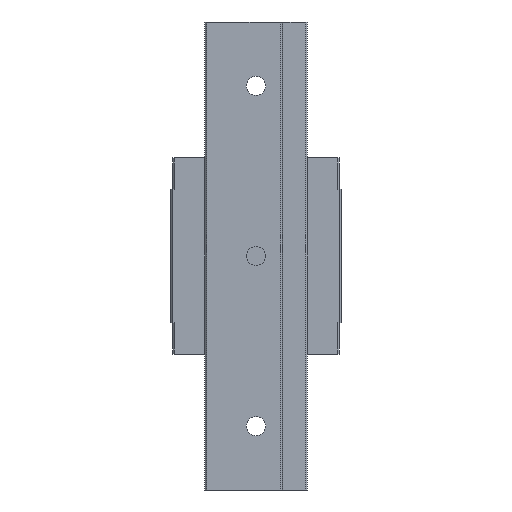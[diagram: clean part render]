
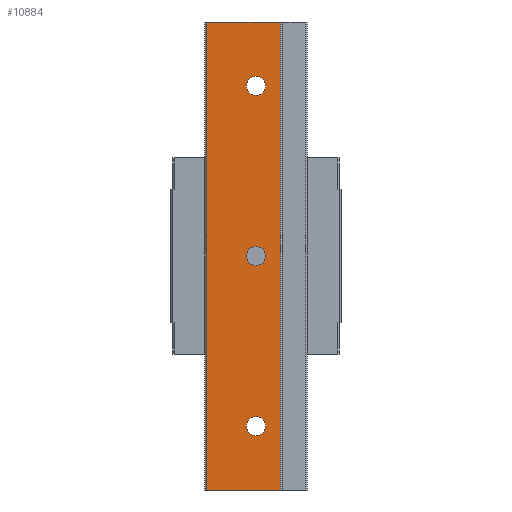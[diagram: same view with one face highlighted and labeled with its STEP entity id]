
A CAD part, front view. The second image highlights one B-rep face of the part: STEP entity #10884.
In plain terms, the highlighted planar face has unit normal (0, -1, 0).
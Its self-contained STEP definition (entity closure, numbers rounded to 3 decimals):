
#17 = CARTESIAN_POINT ( 'NONE',  ( 5.7, 0., 55. ) ) ;
#102 = VERTEX_POINT ( 'NONE', #4094 ) ;
#141 = VERTEX_POINT ( 'NONE', #3196 ) ;
#237 = CARTESIAN_POINT ( 'NONE',  ( 0., 0., 40. ) ) ;
#452 = CIRCLE ( 'NONE', #10877, 2.25 ) ;
#481 = CARTESIAN_POINT ( 'NONE',  ( 6., 0., 55. ) ) ;
#798 = CARTESIAN_POINT ( 'NONE',  ( 0., 0., -40. ) ) ;
#1048 = CARTESIAN_POINT ( 'NONE',  ( -11.6, 0., 55. ) ) ;
#1206 = EDGE_CURVE ( 'NONE', #7839, #102, #5314, .T. ) ;
#1422 = CARTESIAN_POINT ( 'NONE',  ( 0., 0., 0. ) ) ;
#1584 = FACE_BOUND ( 'NONE', #9323, .T. ) ;
#1624 = EDGE_CURVE ( 'NONE', #8481, #141, #7217, .T. ) ;
#1691 = DIRECTION ( 'NONE',  ( 1., 0., 0. ) ) ;
#2215 = ORIENTED_EDGE ( 'NONE', *, *, #1624, .F. ) ;
#2232 = CARTESIAN_POINT ( 'NONE',  ( 0., 0., 40. ) ) ;
#2523 = CIRCLE ( 'NONE', #6062, 2.25 ) ;
#2742 = AXIS2_PLACEMENT_3D ( 'NONE', #798, #7076, #7931 ) ;
#2780 = DIRECTION ( 'NONE',  ( 0., 0., 1. ) ) ;
#2783 = CARTESIAN_POINT ( 'NONE',  ( 5.7, 0., 55. ) ) ;
#2814 = ORIENTED_EDGE ( 'NONE', *, *, #3726, .F. ) ;
#2892 = CIRCLE ( 'NONE', #7164, 2.25 ) ;
#3143 = DIRECTION ( 'NONE',  ( 0., 0., -1. ) ) ;
#3188 = DIRECTION ( 'NONE',  ( 0., 0., -1. ) ) ;
#3196 = CARTESIAN_POINT ( 'NONE',  ( 5.7, 0., -55. ) ) ;
#3623 = VERTEX_POINT ( 'NONE', #3672 ) ;
#3672 = CARTESIAN_POINT ( 'NONE',  ( 0., 0., 37.75 ) ) ;
#3679 = CIRCLE ( 'NONE', #2742, 2.25 ) ;
#3726 = EDGE_CURVE ( 'NONE', #9530, #3623, #2523, .T. ) ;
#3817 = EDGE_LOOP ( 'NONE', ( #5675, #7553, #8089, #2215 ) ) ;
#4074 = DIRECTION ( 'NONE',  ( 0., -1., 0. ) ) ;
#4094 = CARTESIAN_POINT ( 'NONE',  ( 0., 0., -2.25 ) ) ;
#4102 = DIRECTION ( 'NONE',  ( -1., 0., 0. ) ) ;
#4178 = CIRCLE ( 'NONE', #10615, 2.25 ) ;
#4288 = EDGE_CURVE ( 'NONE', #3623, #9530, #452, .T. ) ;
#4342 = DIRECTION ( 'NONE',  ( 0., 1., 0. ) ) ;
#4645 = ORIENTED_EDGE ( 'NONE', *, *, #7266, .F. ) ;
#4690 = VERTEX_POINT ( 'NONE', #8008 ) ;
#4924 = CARTESIAN_POINT ( 'NONE',  ( 6., 0., -55. ) ) ;
#4965 = LINE ( 'NONE', #481, #11197 ) ;
#5008 = DIRECTION ( 'NONE',  ( 0., -1., 0. ) ) ;
#5016 = DIRECTION ( 'NONE',  ( 0., -1., 0. ) ) ;
#5087 = VECTOR ( 'NONE', #9193, 1000. ) ;
#5135 = EDGE_CURVE ( 'NONE', #4690, #9174, #3679, .T. ) ;
#5222 = CARTESIAN_POINT ( 'NONE',  ( 0., 0., -37.75 ) ) ;
#5256 = DIRECTION ( 'NONE',  ( 0., 0., -1. ) ) ;
#5314 = CIRCLE ( 'NONE', #9195, 2.25 ) ;
#5478 = VECTOR ( 'NONE', #2780, 1000. ) ;
#5675 = ORIENTED_EDGE ( 'NONE', *, *, #7691, .T. ) ;
#5682 = CARTESIAN_POINT ( 'NONE',  ( 0., 0., 42.25 ) ) ;
#5686 = VERTEX_POINT ( 'NONE', #1048 ) ;
#5716 = EDGE_CURVE ( 'NONE', #141, #9444, #7299, .T. ) ;
#6062 = AXIS2_PLACEMENT_3D ( 'NONE', #237, #9275, #9098 ) ;
#6140 = DIRECTION ( 'NONE',  ( 0., -1., 0. ) ) ;
#6192 = PLANE ( 'NONE',  #6203 ) ;
#6203 = AXIS2_PLACEMENT_3D ( 'NONE', #11400, #4342, #1691 ) ;
#6696 = DIRECTION ( 'NONE',  ( 0., 0., -1. ) ) ;
#6703 = ORIENTED_EDGE ( 'NONE', *, *, #10928, .F. ) ;
#6902 = FACE_BOUND ( 'NONE', #7283, .T. ) ;
#6903 = CARTESIAN_POINT ( 'NONE',  ( -11.6, 0., -55. ) ) ;
#6957 = FACE_BOUND ( 'NONE', #10883, .T. ) ;
#7076 = DIRECTION ( 'NONE',  ( 0., -1., 0. ) ) ;
#7164 = AXIS2_PLACEMENT_3D ( 'NONE', #1422, #5008, #3188 ) ;
#7216 = CARTESIAN_POINT ( 'NONE',  ( -11.6, 0., 55. ) ) ;
#7217 = LINE ( 'NONE', #2783, #9692 ) ;
#7266 = EDGE_CURVE ( 'NONE', #102, #7839, #2892, .T. ) ;
#7283 = EDGE_LOOP ( 'NONE', ( #4645, #7377 ) ) ;
#7299 = LINE ( 'NONE', #4924, #5087 ) ;
#7377 = ORIENTED_EDGE ( 'NONE', *, *, #1206, .F. ) ;
#7553 = ORIENTED_EDGE ( 'NONE', *, *, #7836, .F. ) ;
#7691 = EDGE_CURVE ( 'NONE', #8481, #5686, #4965, .T. ) ;
#7836 = EDGE_CURVE ( 'NONE', #9444, #5686, #8232, .T. ) ;
#7839 = VERTEX_POINT ( 'NONE', #8921 ) ;
#7931 = DIRECTION ( 'NONE',  ( 0., 0., -1. ) ) ;
#8008 = CARTESIAN_POINT ( 'NONE',  ( 0., 0., -42.25 ) ) ;
#8089 = ORIENTED_EDGE ( 'NONE', *, *, #5716, .F. ) ;
#8232 = LINE ( 'NONE', #7216, #5478 ) ;
#8481 = VERTEX_POINT ( 'NONE', #17 ) ;
#8522 = CARTESIAN_POINT ( 'NONE',  ( 0., 0., 0. ) ) ;
#8729 = FACE_OUTER_BOUND ( 'NONE', #3817, .T. ) ;
#8921 = CARTESIAN_POINT ( 'NONE',  ( 0., 0., 2.25 ) ) ;
#9098 = DIRECTION ( 'NONE',  ( 0., 0., -1. ) ) ;
#9174 = VERTEX_POINT ( 'NONE', #5222 ) ;
#9193 = DIRECTION ( 'NONE',  ( -1., 0., 0. ) ) ;
#9195 = AXIS2_PLACEMENT_3D ( 'NONE', #8522, #5016, #3143 ) ;
#9275 = DIRECTION ( 'NONE',  ( 0., -1., 0. ) ) ;
#9323 = EDGE_LOOP ( 'NONE', ( #10853, #6703 ) ) ;
#9444 = VERTEX_POINT ( 'NONE', #6903 ) ;
#9530 = VERTEX_POINT ( 'NONE', #5682 ) ;
#9692 = VECTOR ( 'NONE', #10718, 1000. ) ;
#9699 = CARTESIAN_POINT ( 'NONE',  ( 0., 0., -40. ) ) ;
#10615 = AXIS2_PLACEMENT_3D ( 'NONE', #9699, #6140, #5256 ) ;
#10718 = DIRECTION ( 'NONE',  ( 0., 0., -1. ) ) ;
#10853 = ORIENTED_EDGE ( 'NONE', *, *, #5135, .F. ) ;
#10877 = AXIS2_PLACEMENT_3D ( 'NONE', #2232, #4074, #6696 ) ;
#10883 = EDGE_LOOP ( 'NONE', ( #11177, #2814 ) ) ;
#10884 = ADVANCED_FACE ( 'NONE', ( #6957, #6902, #1584, #8729 ), #6192, .F. ) ;
#10928 = EDGE_CURVE ( 'NONE', #9174, #4690, #4178, .T. ) ;
#11177 = ORIENTED_EDGE ( 'NONE', *, *, #4288, .F. ) ;
#11197 = VECTOR ( 'NONE', #4102, 1000. ) ;
#11400 = CARTESIAN_POINT ( 'NONE',  ( -12., 0., 55. ) ) ;
